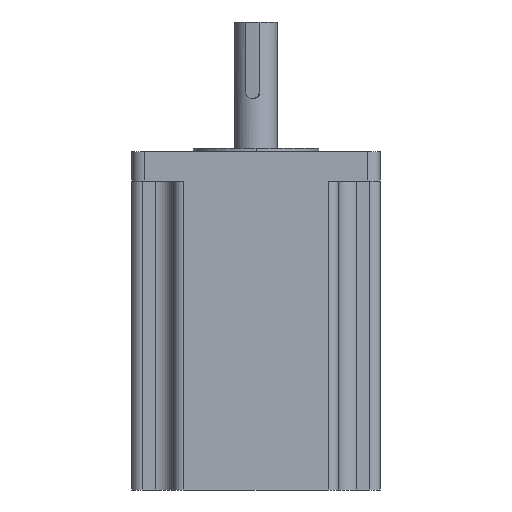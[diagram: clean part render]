
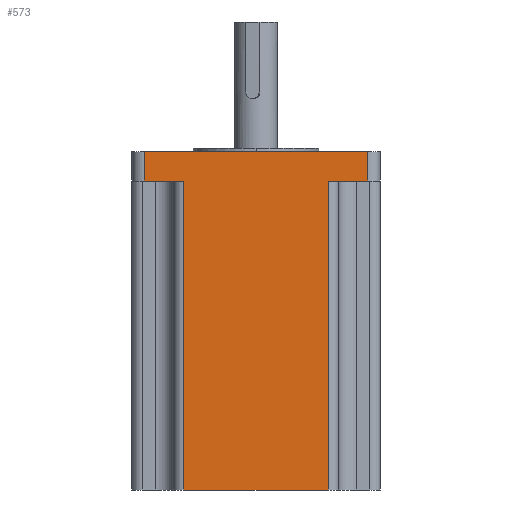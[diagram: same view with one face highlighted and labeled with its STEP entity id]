
A CAD part, left-side view. The second image highlights one B-rep face of the part: STEP entity #573.
In plain terms, the highlighted planar face has unit normal (-1, 0, 0).
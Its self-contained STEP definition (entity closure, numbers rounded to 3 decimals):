
#4 = CARTESIAN_POINT ( 'NONE',  ( -55., -32.05, 0. ) ) ;
#37 = EDGE_CURVE ( 'NONE', #1711, #884, #260, .T. ) ;
#191 = EDGE_CURVE ( 'NONE', #548, #1763, #1566, .T. ) ;
#231 = VECTOR ( 'NONE', #485, 1000. ) ;
#247 = EDGE_CURVE ( 'NONE', #884, #1763, #407, .T. ) ;
#260 = LINE ( 'NONE', #1501, #510 ) ;
#266 = ORIENTED_EDGE ( 'NONE', *, *, #1316, .F. ) ;
#270 = AXIS2_PLACEMENT_3D ( 'NONE', #1975, #290, #605 ) ;
#290 = DIRECTION ( 'NONE',  ( 1., 0., 0. ) ) ;
#300 = CARTESIAN_POINT ( 'NONE',  ( -55., 32.05, 0. ) ) ;
#323 = EDGE_CURVE ( 'NONE', #548, #545, #2167, .T. ) ;
#334 = DIRECTION ( 'NONE',  ( 0., 1., 0. ) ) ;
#381 = DIRECTION ( 'NONE',  ( 0., 1., 0. ) ) ;
#407 = LINE ( 'NONE', #1059, #697 ) ;
#455 = DIRECTION ( 'NONE',  ( 0., 1., 0. ) ) ;
#458 = VECTOR ( 'NONE', #455, 1000. ) ;
#485 = DIRECTION ( 'NONE',  ( 0., 1., 0. ) ) ;
#504 = VECTOR ( 'NONE', #1242, 1000. ) ;
#510 = VECTOR ( 'NONE', #334, 1000. ) ;
#525 = CARTESIAN_POINT ( 'NONE',  ( -55., 32.05, -137. ) ) ;
#537 = FACE_OUTER_BOUND ( 'NONE', #1221, .T. ) ;
#543 = CARTESIAN_POINT ( 'NONE',  ( -55., 55., 13. ) ) ;
#545 = VERTEX_POINT ( 'NONE', #1611 ) ;
#548 = VERTEX_POINT ( 'NONE', #943 ) ;
#573 = ADVANCED_FACE ( 'NONE', ( #537 ), #961, .F. ) ;
#605 = DIRECTION ( 'NONE',  ( 0., 0., -1. ) ) ;
#668 = VECTOR ( 'NONE', #935, 1000. ) ;
#686 = CARTESIAN_POINT ( 'NONE',  ( -55., 49.5, 13. ) ) ;
#697 = VECTOR ( 'NONE', #871, 1000. ) ;
#730 = ORIENTED_EDGE ( 'NONE', *, *, #1486, .F. ) ;
#761 = ORIENTED_EDGE ( 'NONE', *, *, #191, .T. ) ;
#825 = VERTEX_POINT ( 'NONE', #1067 ) ;
#835 = VERTEX_POINT ( 'NONE', #525 ) ;
#871 = DIRECTION ( 'NONE',  ( 0., 0., 1. ) ) ;
#884 = VERTEX_POINT ( 'NONE', #1574 ) ;
#916 = CARTESIAN_POINT ( 'NONE',  ( -55., -49.5, 13. ) ) ;
#935 = DIRECTION ( 'NONE',  ( 0., 0., -1. ) ) ;
#943 = CARTESIAN_POINT ( 'NONE',  ( -55., -49.5, 13. ) ) ;
#951 = VECTOR ( 'NONE', #1595, 1000. ) ;
#961 = PLANE ( 'NONE',  #270 ) ;
#1059 = CARTESIAN_POINT ( 'NONE',  ( -55., 49.5, 13. ) ) ;
#1067 = CARTESIAN_POINT ( 'NONE',  ( -55., -32.05, -137. ) ) ;
#1134 = EDGE_CURVE ( 'NONE', #825, #835, #1857, .T. ) ;
#1139 = VECTOR ( 'NONE', #381, 1000. ) ;
#1221 = EDGE_LOOP ( 'NONE', ( #1916, #730, #266, #1700, #761, #1485, #1353, #2102 ) ) ;
#1242 = DIRECTION ( 'NONE',  ( 0., 0., 1. ) ) ;
#1257 = VERTEX_POINT ( 'NONE', #4 ) ;
#1316 = EDGE_CURVE ( 'NONE', #545, #1257, #2063, .T. ) ;
#1353 = ORIENTED_EDGE ( 'NONE', *, *, #37, .F. ) ;
#1485 = ORIENTED_EDGE ( 'NONE', *, *, #247, .F. ) ;
#1486 = EDGE_CURVE ( 'NONE', #1257, #825, #1564, .T. ) ;
#1491 = CARTESIAN_POINT ( 'NONE',  ( -55., -55., 0. ) ) ;
#1501 = CARTESIAN_POINT ( 'NONE',  ( -55., -55., 0. ) ) ;
#1564 = LINE ( 'NONE', #1915, #668 ) ;
#1566 = LINE ( 'NONE', #543, #1139 ) ;
#1574 = CARTESIAN_POINT ( 'NONE',  ( -55., 49.5, 0. ) ) ;
#1595 = DIRECTION ( 'NONE',  ( 0., 0., -1. ) ) ;
#1611 = CARTESIAN_POINT ( 'NONE',  ( -55., -49.5, 0. ) ) ;
#1700 = ORIENTED_EDGE ( 'NONE', *, *, #323, .F. ) ;
#1711 = VERTEX_POINT ( 'NONE', #300 ) ;
#1763 = VERTEX_POINT ( 'NONE', #686 ) ;
#1857 = LINE ( 'NONE', #1955, #458 ) ;
#1915 = CARTESIAN_POINT ( 'NONE',  ( -55., -32.05, 13. ) ) ;
#1916 = ORIENTED_EDGE ( 'NONE', *, *, #1134, .F. ) ;
#1951 = LINE ( 'NONE', #2088, #504 ) ;
#1955 = CARTESIAN_POINT ( 'NONE',  ( -55., -32.05, -137. ) ) ;
#1975 = CARTESIAN_POINT ( 'NONE',  ( -55., -55., 13. ) ) ;
#2063 = LINE ( 'NONE', #1491, #231 ) ;
#2088 = CARTESIAN_POINT ( 'NONE',  ( -55., 32.05, -137. ) ) ;
#2102 = ORIENTED_EDGE ( 'NONE', *, *, #2137, .F. ) ;
#2137 = EDGE_CURVE ( 'NONE', #835, #1711, #1951, .T. ) ;
#2167 = LINE ( 'NONE', #916, #951 ) ;
